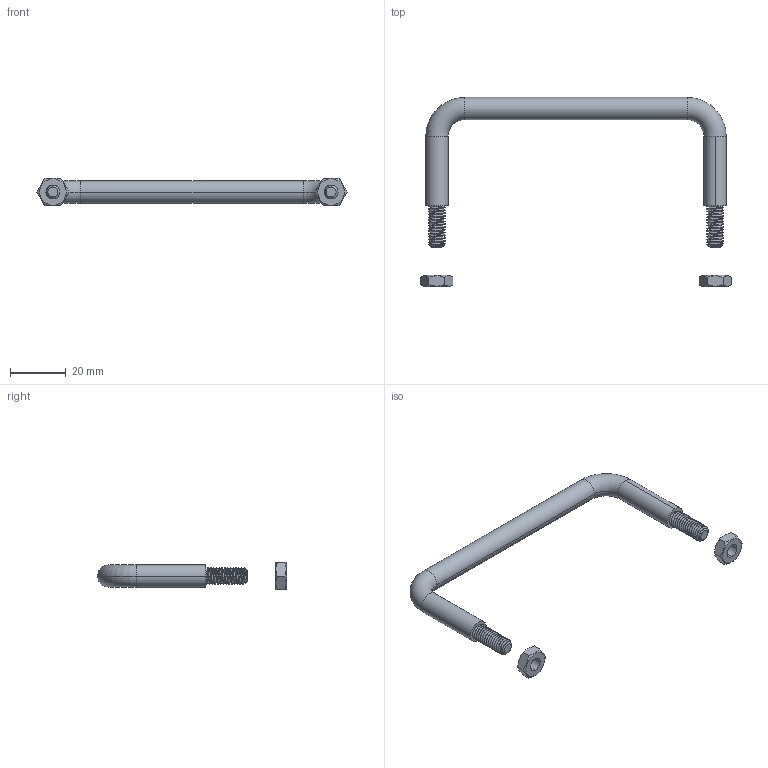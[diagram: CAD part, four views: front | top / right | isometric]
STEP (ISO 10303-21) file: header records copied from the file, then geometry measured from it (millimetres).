
FILE_DESCRIPTION (( 'STEP AP203' ), '1' );
FILE_NAME ('SK4-002.STEP', '2018-11-01T09:00:31', ( 'admin' ), ( 'Microsoft' ), 'SwSTEP 2.0', 'SolidWorks 2015', '' );
FILE_SCHEMA (( 'CONFIG_CONTROL_DESIGN' ));
Length unit declared in the file: millimetre
Products named in the file (3): SK4-002; M6蹟譫
Assembly tree (3 placements, depth 2):
  SK4-002
    SK4-002
    M6蹟譫  x2
Bounding box: 111.55 x 68 x 10 mm (x, y, z)
Volume: 9270.7 mm3; surface area: 5675.5 mm2
Topology: 3 solids, 3 shells, 111 faces, 303 edges, 200 vertices
Faces by surface type: cylinder 68, plane 22, cone 13, torus 4, bspline 4
Entity records: 6970 total; most frequent: CARTESIAN_POINT 4568, ORIENTED_EDGE 534, DIRECTION 345, EDGE_CURVE 267, VERTEX_POINT 176, AXIS2_PLACEMENT_3D 131, EDGE_LOOP 101, ADVANCED_FACE 97
